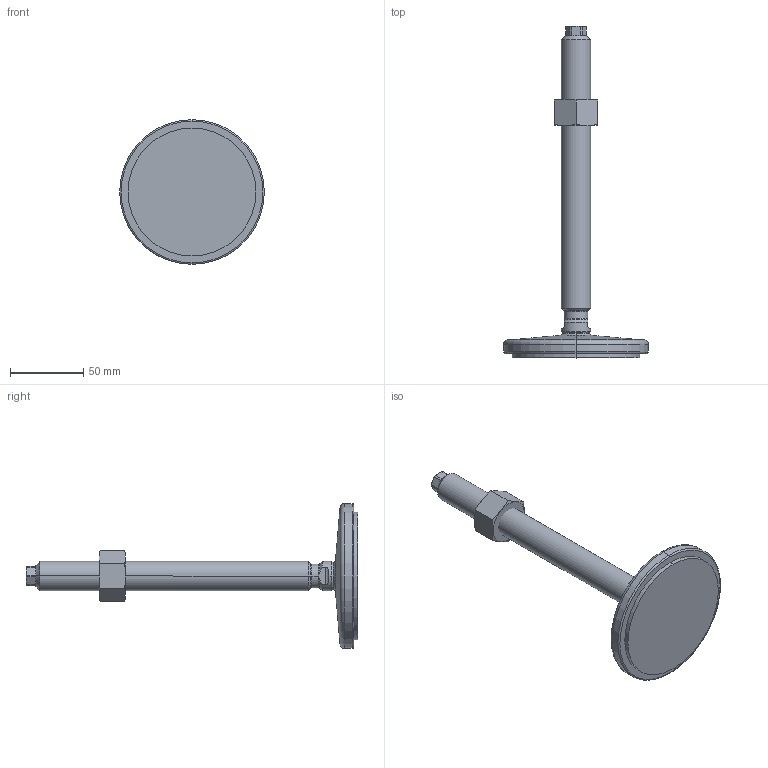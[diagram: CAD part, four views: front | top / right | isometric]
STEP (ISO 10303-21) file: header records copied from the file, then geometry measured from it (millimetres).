
FILE_DESCRIPTION (( 'STEP AP214' ), '1' );
FILE_NAME ('21-100-M20-200-D1-VK.step', '2020-10-02T17:37:27', ( '' ), ( '' ), 'SwSTEP 2.0', 'SolidWorks 2019', '' );
FILE_SCHEMA (( 'AUTOMOTIVE_DESIGN' ));
Length unit declared in the file: millimetre
Products named in the file (4): 21-100-M20-200-D1-VK; WB21_Fußteller 21^WB21_V_D1-100-R12-B9 (M20); WB21_Spindel_V^WB21_V_M20-200; WB4032^WB21_V_M20
Assembly tree (3 placements, depth 2):
  21-100-M20-200-D1-VK
    WB21_Fußteller 21^WB21_V_D1-100-R12-B9 (M20)
    WB21_Spindel_V^WB21_V_M20-200
    WB4032^WB21_V_M20
Bounding box: 99 x 227.02 x 99 mm (x, y, z)
Volume: 171492.1 mm3; surface area: 36414.6 mm2
Topology: 3 solids, 3 shells, 98 faces, 219 edges, 129 vertices
Faces by surface type: cone 29, plane 28, cylinder 27, torus 10, sphere 4
Entity records: 3117 total; most frequent: CARTESIAN_POINT 724, DIRECTION 476, ORIENTED_EDGE 438, EDGE_CURVE 219, AXIS2_PLACEMENT_3D 205, VERTEX_POINT 129, EDGE_LOOP 102, CIRCLE 101
